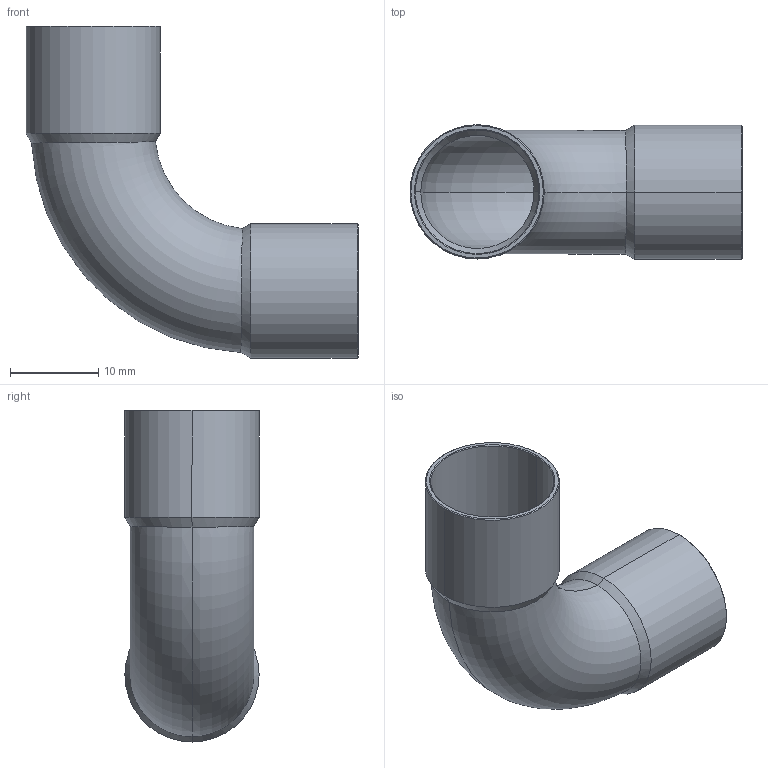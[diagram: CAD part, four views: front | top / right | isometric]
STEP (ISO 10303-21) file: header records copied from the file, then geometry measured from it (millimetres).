
FILE_DESCRIPTION((''),'2;1');
FILE_NAME('D:\5002\15002a14.stp','2005-10-04T11:28:31',('Kris'),(''),'Autodesk Inventor 8','Autodesk Inventor 8','');
FILE_SCHEMA(('AUTOMOTIVE_DESIGN { 1 0 10303 214 1 1 1 1 }'));
Length unit declared in the file: millimetre
Products named in the file (1): 15002a14
Bounding box: 37.6 x 15.2 x 37.6 mm (x, y, z)
Volume: 1384.8 mm3; surface area: 4663.3 mm2
Topology: 1 solids, 1 shells, 30 faces, 60 edges, 32 vertices
Faces by surface type: cone 12, bspline 9, torus 4, cylinder 4, plane 1
Entity records: 1027 total; most frequent: CARTESIAN_POINT 414, DIRECTION 124, ORIENTED_EDGE 120, EDGE_CURVE 60, AXIS2_PLACEMENT_3D 50, VERTEX_POINT 32, EDGE_LOOP 32, FACE_OUTER_BOUND 30
